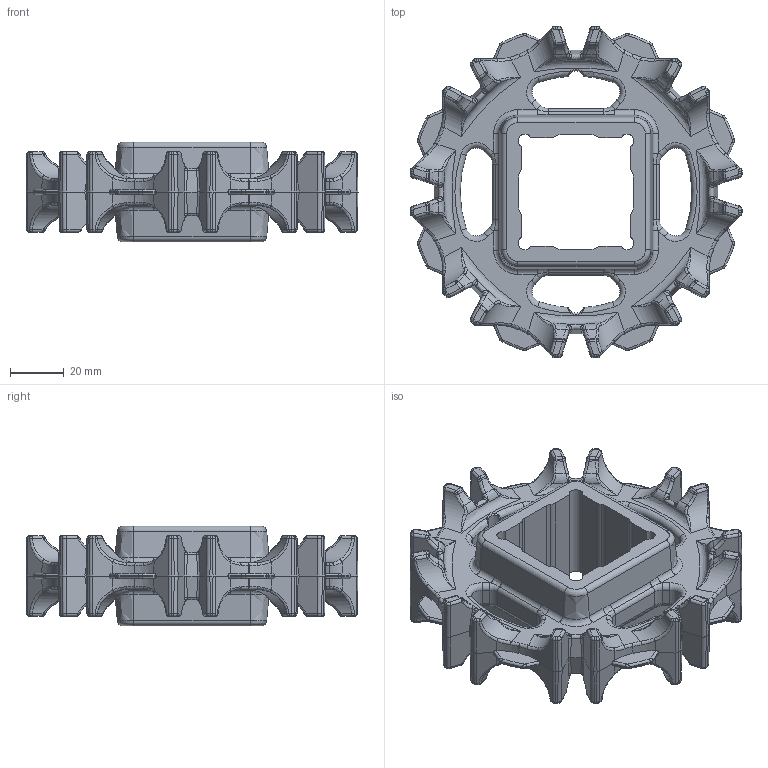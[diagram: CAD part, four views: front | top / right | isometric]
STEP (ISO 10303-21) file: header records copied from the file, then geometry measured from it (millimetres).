
FILE_DESCRIPTION(/* description */ (''),/* implementation_level */ '2;1');
FILE_NAME(/* name */ 'HS-100A-HD-N-8T.stp',/* time_stamp */ '2025-09-12T15:09:48+08:00',/* author */ (''),/* organization */ (''),/* preprocessor_version */ 'ST-DEVELOPER v15',/* originating_system */ 'SIEMENS PLM Software NX 8.5',/* authorisation */ '');
FILE_SCHEMA (('AP203_CONFIGURATION_CONTROLLED_3D_DESIGN_OF_MECHANICAL_PARTS_AND_ASSEMBLIES_MIM_LF { 1 0 10303 403 2 1 2}'));
Products named in the file (1): Admi2A20536372dl
Bounding box: 123.31 x 123.31 x 37 mm (x, y, z)
Volume: 133548 mm3; surface area: 42002.4 mm2
Topology: 1 solids, 1 shells, 1495 faces, 3602 edges, 1941 vertices
Faces by surface type: bspline 481, cylinder 479, plane 244, torus 160, sphere 99, cone 32
Entity records: 61693 total; most frequent: CARTESIAN_POINT 20022, ORIENTED_EDGE 6880, DIRECTION 6239, EDGE_CURVE 3440, AXIS2_PLACEMENT_3D 2600, VERTEX_POINT 1941, EDGE_LOOP 1499, PRESENTATION_STYLE_ASSIGNMENT 1497
